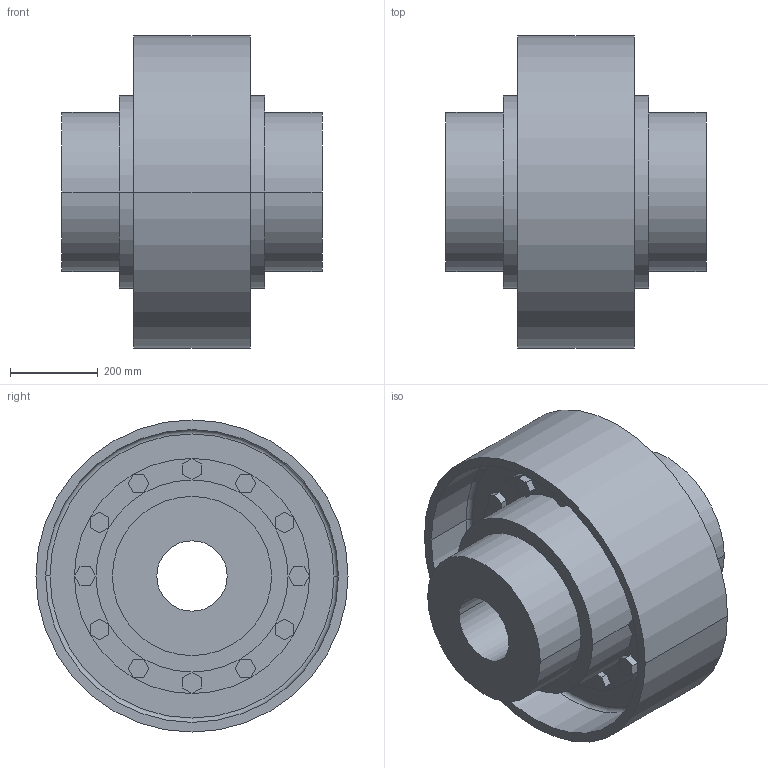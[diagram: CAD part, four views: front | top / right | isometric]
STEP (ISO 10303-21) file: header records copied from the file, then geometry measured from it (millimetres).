
FILE_DESCRIPTION((''),'2;1');
FILE_NAME('A19110200-0_ASM','2018-11-12T',('AB_Roschiwal'),('RENK AG'),'PRO/ENGINEER BY PARAMETRIC TECHNOLOGY CORPORATION, 2015440','PRO/ENGINEER BY PARAMETRIC TECHNOLOGY CORPORATION, 2015440','');
FILE_SCHEMA(('CONFIG_CONTROL_DESIGN'));
Length unit declared in the file: millimetre
Products named in the file (4): LBKD225_GEHAEUSE; LBKD225_NABE; LBKD225_BREMSSCHEIBE; A19110200-0_ASM
Assembly tree (4 placements, depth 2):
  A19110200-0_ASM
    LBKD225_GEHAEUSE
    LBKD225_NABE  x2
    LBKD225_BREMSSCHEIBE
Bounding box: 592 x 710 x 710 mm (x, y, z)
Volume: 80867118.3 mm3; surface area: 4378036.5 mm2
Topology: 4 solids, 4 shells, 292 faces, 704 edges, 468 vertices
Faces by surface type: plane 200, cylinder 88, torus 4
Entity records: 8356 total; most frequent: DIRECTION 1424, CARTESIAN_POINT 1420, ORIENTED_EDGE 1360, EDGE_CURVE 680, VECTOR 512, LINE 512, AXIS2_PLACEMENT_3D 456, VERTEX_POINT 452
